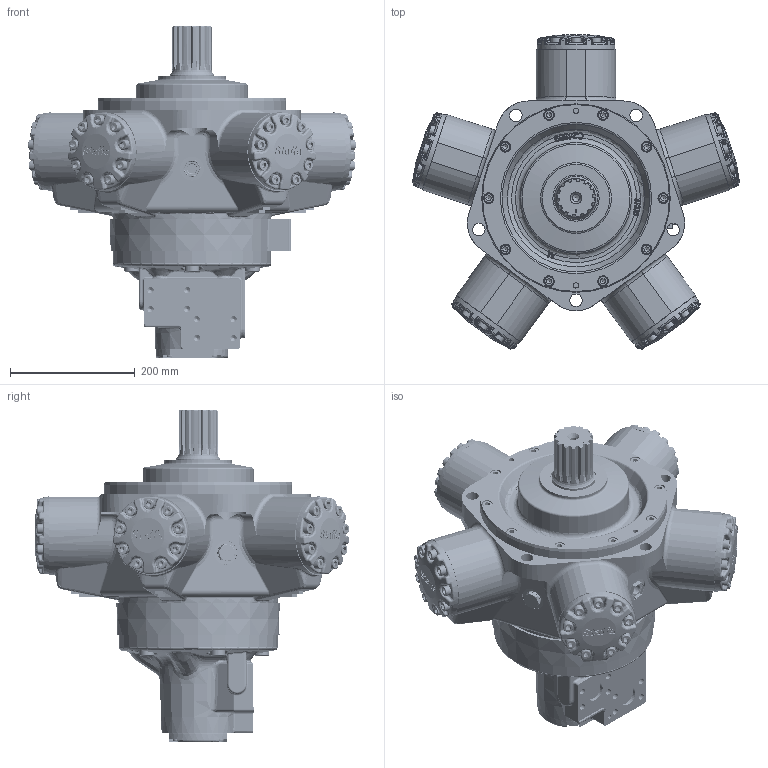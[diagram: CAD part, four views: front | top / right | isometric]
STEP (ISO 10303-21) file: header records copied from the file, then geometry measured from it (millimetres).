
FILE_DESCRIPTION(/* description */ (''),/* implementation_level */ '2;1');
FILE_NAME(/* name */ 'HMC080_S_FM3_X_82.stp',/* time_stamp */ '2026-01-20T11:21:35Z',/* author */ ('ccallanga'),/* organization */ (''),/* preprocessor_version */ 'ST-DEVELOPER v20',/* originating_system */ 'Autodesk Inventor 2024',/* authorisation */ '');
FILE_SCHEMA (('AUTOMOTIVE_DESIGN { 1 0 10303 214 3 1 1 }'));
Products named in the file (1): 017754 HMC080 WEBSITE ASSEMBLY_Simplify_1
Bounding box: 524.48 x 502.42 x 531.21 mm (x, y, z)
Volume: 28554137 mm3; surface area: 862223.8 mm2
Topology: 1 solids, 1 shells, 5205 faces, 12466 edges, 7286 vertices
Faces by surface type: bspline 1784, plane 1358, cylinder 1138, torus 582, sphere 206, cone 137
Full cylindrical faces by diameter (mm): 6.2 x1, 8.376 x2, 10.109 x8, 11.328 x1, 11.445 x2, 11.913 x4, 12.7 x4, 16 x55, 16.5 x45, 16.51 x1, 17 x10, 20 x5, 23.825 x5, 25.4 x5, 26.92 x2, 31.75 x2, 38.1 x3, 68.58 x1, 69.825 x1, 73.914 x1, 88.901 x1, 107.95 x1, 177.8 x1, 254 x1, 301.535 x1
Entity records: 213631 total; most frequent: CARTESIAN_POINT 106255, ORIENTED_EDGE 24500, DIRECTION 18841, EDGE_CURVE 12250, AXIS2_PLACEMENT_3D 7431, VERTEX_POINT 7286, EDGE_LOOP 5464, FACE_OUTER_BOUND 5205
